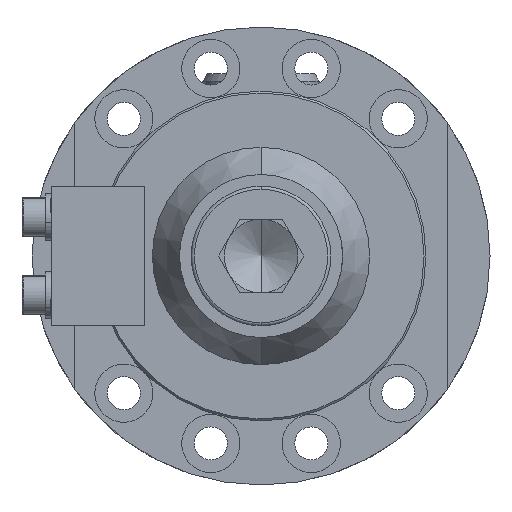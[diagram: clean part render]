
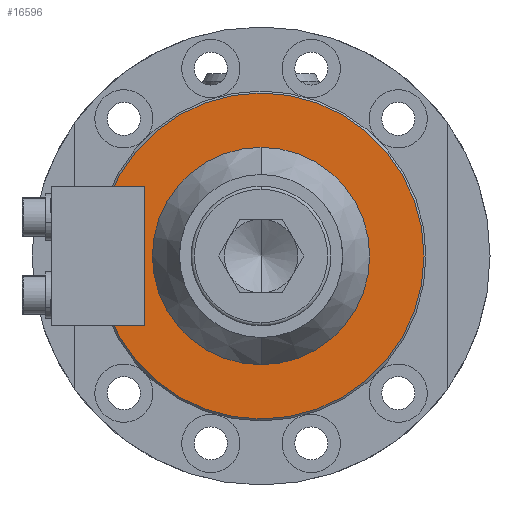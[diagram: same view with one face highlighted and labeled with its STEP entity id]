
A CAD part, left-side view. The second image highlights one B-rep face of the part: STEP entity #16596.
In plain terms, the highlighted planar face has unit normal (-1, 0, 0).
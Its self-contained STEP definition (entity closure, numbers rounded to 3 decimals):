
#935 = CIRCLE ( 'NONE', #11864, 28. ) ;
#1396 = CARTESIAN_POINT ( 'NONE',  ( -130., 0., 0. ) ) ;
#1735 = DIRECTION ( 'NONE',  ( 0., 0., -1. ) ) ;
#1755 = CARTESIAN_POINT ( 'NONE',  ( -130., 0., 0. ) ) ;
#1952 = FACE_OUTER_BOUND ( 'NONE', #8047, .T. ) ;
#2878 = EDGE_CURVE ( 'NONE', #7936, #4913, #19980, .T. ) ;
#3556 = CARTESIAN_POINT ( 'NONE',  ( -130., 0., 0. ) ) ;
#4572 = EDGE_CURVE ( 'NONE', #20315, #20626, #15724, .T. ) ;
#4913 = VERTEX_POINT ( 'NONE', #13176 ) ;
#5858 = DIRECTION ( 'NONE',  ( 0., 0., 1. ) ) ;
#7889 = ORIENTED_EDGE ( 'NONE', *, *, #4572, .T. ) ;
#7936 = VERTEX_POINT ( 'NONE', #21834 ) ;
#8047 = EDGE_LOOP ( 'NONE', ( #16388, #14723 ) ) ;
#8850 = DIRECTION ( 'NONE',  ( 1., 0., 0. ) ) ;
#8965 = DIRECTION ( 'NONE',  ( 0., 0., -1. ) ) ;
#9200 = DIRECTION ( 'NONE',  ( -1., 0., 0. ) ) ;
#9464 = AXIS2_PLACEMENT_3D ( 'NONE', #3556, #18447, #1735 ) ;
#11134 = EDGE_CURVE ( 'NONE', #20626, #20315, #935, .T. ) ;
#11864 = AXIS2_PLACEMENT_3D ( 'NONE', #1396, #8850, #8965 ) ;
#11990 = EDGE_CURVE ( 'NONE', #4913, #7936, #23769, .T. ) ;
#13176 = CARTESIAN_POINT ( 'NONE',  ( -130., 0., -42. ) ) ;
#13425 = FACE_BOUND ( 'NONE', #13848, .T. ) ;
#13456 = DIRECTION ( 'NONE',  ( 0., 0., -1. ) ) ;
#13848 = EDGE_LOOP ( 'NONE', ( #7889, #22776 ) ) ;
#14723 = ORIENTED_EDGE ( 'NONE', *, *, #11990, .T. ) ;
#15724 = CIRCLE ( 'NONE', #18825, 28. ) ;
#16388 = ORIENTED_EDGE ( 'NONE', *, *, #2878, .T. ) ;
#16596 = ADVANCED_FACE ( 'NONE', ( #13425, #1952 ), #16607, .T. ) ;
#16607 = PLANE ( 'NONE',  #22046 ) ;
#16723 = CARTESIAN_POINT ( 'NONE',  ( -130., -20.25, 0. ) ) ;
#18447 = DIRECTION ( 'NONE',  ( -1., 0., 0. ) ) ;
#18557 = DIRECTION ( 'NONE',  ( -1., 0., 0. ) ) ;
#18825 = AXIS2_PLACEMENT_3D ( 'NONE', #23189, #19288, #21351 ) ;
#19288 = DIRECTION ( 'NONE',  ( 1., 0., 0. ) ) ;
#19812 = CARTESIAN_POINT ( 'NONE',  ( -130., 0., 28. ) ) ;
#19980 = CIRCLE ( 'NONE', #9464, 42. ) ;
#20315 = VERTEX_POINT ( 'NONE', #21739 ) ;
#20626 = VERTEX_POINT ( 'NONE', #19812 ) ;
#21351 = DIRECTION ( 'NONE',  ( 0., 0., -1. ) ) ;
#21445 = AXIS2_PLACEMENT_3D ( 'NONE', #1755, #9200, #13456 ) ;
#21739 = CARTESIAN_POINT ( 'NONE',  ( -130., 0., -28. ) ) ;
#21834 = CARTESIAN_POINT ( 'NONE',  ( -130., 0., 42. ) ) ;
#22046 = AXIS2_PLACEMENT_3D ( 'NONE', #16723, #18557, #5858 ) ;
#22776 = ORIENTED_EDGE ( 'NONE', *, *, #11134, .T. ) ;
#23189 = CARTESIAN_POINT ( 'NONE',  ( -130., 0., 0. ) ) ;
#23769 = CIRCLE ( 'NONE', #21445, 42. ) ;
